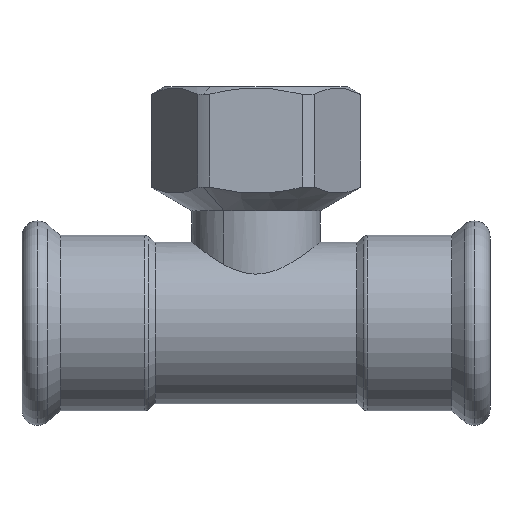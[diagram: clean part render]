
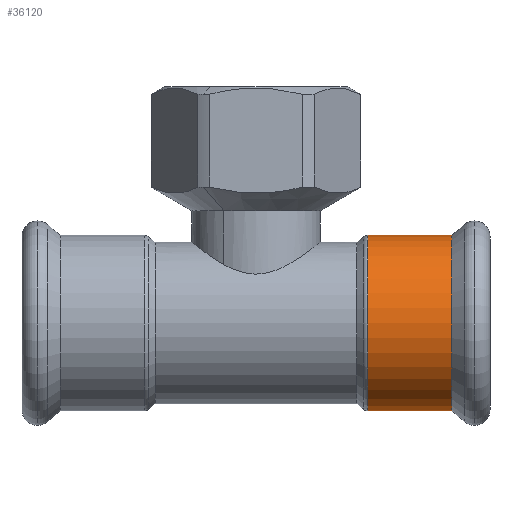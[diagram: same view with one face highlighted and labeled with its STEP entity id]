
A CAD part, top view. The second image highlights one B-rep face of the part: STEP entity #36120.
In plain terms, the highlighted cylindrical face has radius 19.15 mm (diameter 38.3 mm), a partial arc.
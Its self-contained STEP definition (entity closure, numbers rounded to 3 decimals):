
#22220=CARTESIAN_POINT('',(-269.361,147.122,
0.));
#22230=VERTEX_POINT('',#22220);
#22330=CARTESIAN_POINT('',(-307.661,147.122,
0.));
#22340=VERTEX_POINT('',#22330);
#22370=CARTESIAN_POINT('',(-288.511,147.122,
0.));
#22380=DIRECTION('',(0.,1.,0.));
#22390=DIRECTION('',(1.,0.,0.));
#22400=AXIS2_PLACEMENT_3D('',#22370,#22380,#22390);
#22410=CIRCLE('',#22400,19.15);
#25160=CARTESIAN_POINT('',(-288.511,138.262,
0.));
#25170=DIRECTION('',(0.,1.,0.));
#25180=DIRECTION('',(1.,0.,0.));
#25190=AXIS2_PLACEMENT_3D('',#25160,#25170,#25180);
#25200=CYLINDRICAL_SURFACE('',#25190,19.15);
#25210=CARTESIAN_POINT('',(-307.661,138.262,
0.));
#25220=DIRECTION('',(0.,1.,0.));
#25230=VECTOR('',#25220,1.);
#25240=LINE('',#25210,#25230);
#25250=CARTESIAN_POINT('',(-307.661,128.855,
0.));
#25260=VERTEX_POINT('',#25250);
#25270=EDGE_CURVE('',#25260,#22340,#25240,.T.);
#25290=CARTESIAN_POINT('',(-288.511,128.855,
0.));
#25300=DIRECTION('',(0.,-1.,0.));
#25310=DIRECTION('',(1.,0.,0.));
#25320=AXIS2_PLACEMENT_3D('',#25290,#25300,#25310);
#25330=CIRCLE('',#25320,19.15);
#25340=CARTESIAN_POINT('',(-269.361,128.855,
0.));
#25350=VERTEX_POINT('',#25340);
#25380=CARTESIAN_POINT('',(-269.361,138.262,
0.));
#25390=DIRECTION('',(0.,1.,0.));
#25400=VECTOR('',#25390,1.);
#25410=LINE('',#25380,#25400);
#25420=EDGE_CURVE('',#25350,#22230,#25410,.T.);
#35960=EDGE_CURVE('',#25350,#25260,#25330,.T.);
#36050=ORIENTED_EDGE('',*,*,#35960,.F.);
#36060=ORIENTED_EDGE('',*,*,#25270,.F.);
#36070=EDGE_CURVE('',#22340,#22230,#22410,.T.);
#36080=ORIENTED_EDGE('',*,*,#36070,.F.);
#36090=ORIENTED_EDGE('',*,*,#25420,.T.);
#36100=EDGE_LOOP('',(#36090,#36080,#36060,#36050));
#36110=FACE_OUTER_BOUND('',#36100,.T.);
#36120=ADVANCED_FACE('',(#36110),#25200,.T.);
